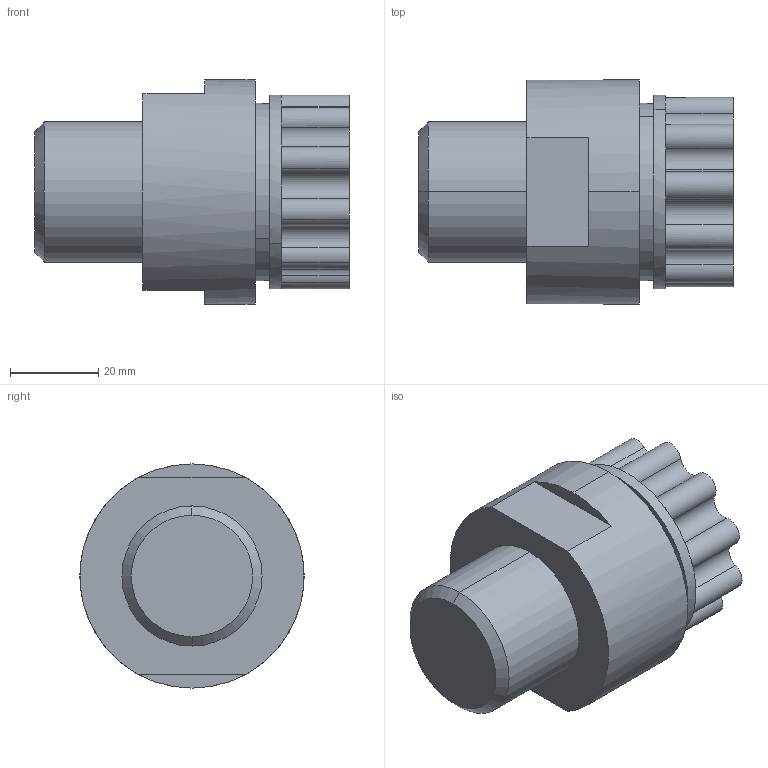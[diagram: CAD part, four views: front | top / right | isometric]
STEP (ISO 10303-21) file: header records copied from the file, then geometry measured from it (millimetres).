
FILE_DESCRIPTION (( 'STEP AP214' ), '1' );
FILE_NAME ('Fitting Synchro-Flare 16.STEP', '2012-09-26T19:32:38', ( '' ), ( '' ), 'SwSTEP 2.0', 'SolidWorks 2012', '' );
FILE_SCHEMA (( 'AUTOMOTIVE_DESIGN' ));
Length unit declared in the file: inch
Products named in the file (1): Fitting Synchro-Flare 16
Bounding box: 71.19 x 50.8 x 50.8 mm (x, y, z)
Volume: 93548.6 mm3; surface area: 14631.2 mm2
Topology: 1 solids, 1 shells, 59 faces, 147 edges, 94 vertices
Faces by surface type: cylinder 35, plane 20, cone 4
Entity records: 1884 total; most frequent: DIRECTION 367, CARTESIAN_POINT 301, ORIENTED_EDGE 294, AXIS2_PLACEMENT_3D 160, EDGE_CURVE 147, CIRCLE 100, VERTEX_POINT 94, EDGE_LOOP 63
